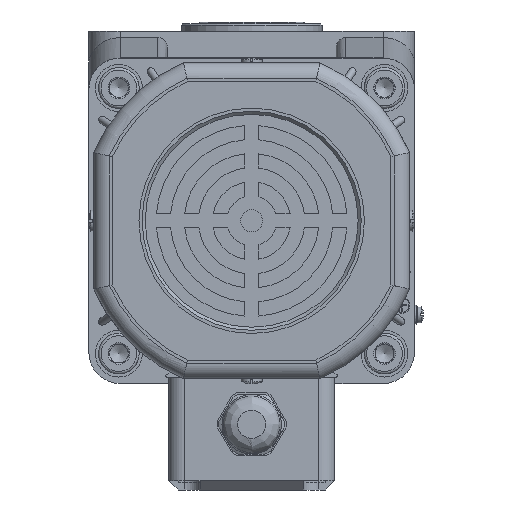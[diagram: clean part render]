
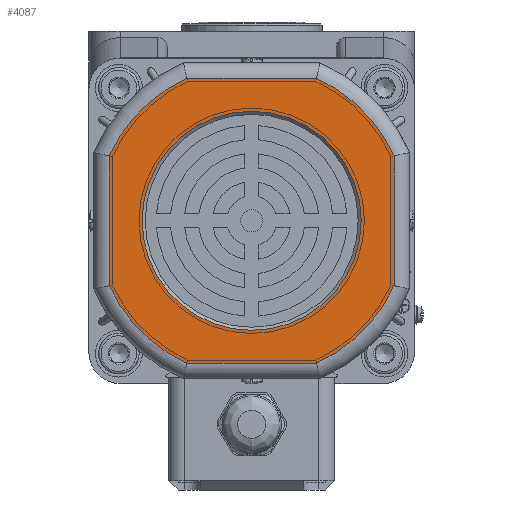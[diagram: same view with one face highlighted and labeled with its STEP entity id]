
A CAD part, left-side view. The second image highlights one B-rep face of the part: STEP entity #4087.
In plain terms, the highlighted planar face has unit normal (-1, 0, 0).
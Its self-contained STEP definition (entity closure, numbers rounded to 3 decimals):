
#4087=ADVANCED_FACE('',(#10599,#10600),#5980,.F.);
#5980=PLANE('',#32898);
#7019=LINE('',#45911,#8898);
#7020=LINE('',#45916,#8899);
#7021=LINE('',#45920,#8900);
#7022=LINE('',#45924,#8901);
#8898=VECTOR('',#36902,1.);
#8899=VECTOR('',#36905,1.);
#8900=VECTOR('',#36908,1.);
#8901=VECTOR('',#36911,1.);
#10599=FACE_BOUND('',#11683,.T.);
#10600=FACE_BOUND('',#11684,.T.);
#11683=EDGE_LOOP('',(#14713,#14714,#14715,#14716,#14717,#14718,#14719,#14720));
#11684=EDGE_LOOP('',(#14721));
#14713=ORIENTED_EDGE('',*,*,#26639,.T.);
#14714=ORIENTED_EDGE('',*,*,#26640,.T.);
#14715=ORIENTED_EDGE('',*,*,#26641,.T.);
#14716=ORIENTED_EDGE('',*,*,#26642,.T.);
#14717=ORIENTED_EDGE('',*,*,#26643,.T.);
#14718=ORIENTED_EDGE('',*,*,#26644,.T.);
#14719=ORIENTED_EDGE('',*,*,#26645,.T.);
#14720=ORIENTED_EDGE('',*,*,#26646,.T.);
#14721=ORIENTED_EDGE('',*,*,#26647,.T.);
#23435=VERTEX_POINT('',#45912);
#23436=VERTEX_POINT('',#45913);
#23437=VERTEX_POINT('',#45915);
#23438=VERTEX_POINT('',#45917);
#23439=VERTEX_POINT('',#45919);
#23440=VERTEX_POINT('',#45921);
#23441=VERTEX_POINT('',#45923);
#23442=VERTEX_POINT('',#45925);
#23443=VERTEX_POINT('',#45928);
#26639=EDGE_CURVE('',#23435,#23436,#7019,.T.);
#26640=EDGE_CURVE('',#23436,#23437,#31116,.T.);
#26641=EDGE_CURVE('',#23437,#23438,#7020,.T.);
#26642=EDGE_CURVE('',#23438,#23439,#31117,.T.);
#26643=EDGE_CURVE('',#23439,#23440,#7021,.T.);
#26644=EDGE_CURVE('',#23440,#23441,#31118,.T.);
#26645=EDGE_CURVE('',#23441,#23442,#7022,.T.);
#26646=EDGE_CURVE('',#23442,#23435,#31119,.T.);
#26647=EDGE_CURVE('',#23443,#23443,#31120,.T.);
#31116=CIRCLE('',#32893,50.);
#31117=CIRCLE('',#32894,50.);
#31118=CIRCLE('',#32895,50.);
#31119=CIRCLE('',#32896,50.);
#31120=CIRCLE('',#32897,35.);
#32893=AXIS2_PLACEMENT_3D('',#45914,#36903,#36904);
#32894=AXIS2_PLACEMENT_3D('',#45918,#36906,#36907);
#32895=AXIS2_PLACEMENT_3D('',#45922,#36909,#36910);
#32896=AXIS2_PLACEMENT_3D('',#45926,#36912,#36913);
#32897=AXIS2_PLACEMENT_3D('',#45927,#36914,#36915);
#32898=AXIS2_PLACEMENT_3D('',#45929,#36916,#36917);
#36902=DIRECTION('',(0.,-1.,0.));
#36903=DIRECTION('',(-1.,0.,0.));
#36904=DIRECTION('',(0.,0.,1.));
#36905=DIRECTION('',(0.,0.,1.));
#36906=DIRECTION('',(-1.,0.,0.));
#36907=DIRECTION('',(0.,0.,1.));
#36908=DIRECTION('',(0.,1.,0.));
#36909=DIRECTION('',(-1.,0.,0.));
#36910=DIRECTION('',(0.,0.,1.));
#36911=DIRECTION('',(0.,0.,-1.));
#36912=DIRECTION('',(-1.,0.,0.));
#36913=DIRECTION('',(0.,0.,1.));
#36914=DIRECTION('',(1.,0.,0.));
#36915=DIRECTION('',(0.,-1.,0.));
#36916=DIRECTION('',(1.,0.,0.));
#36917=DIRECTION('',(0.,0.,1.));
#45911=CARTESIAN_POINT('',(-227.8,-142.46,-103.991));
#45912=CARTESIAN_POINT('',(-227.8,-99.941,-103.991));
#45913=CARTESIAN_POINT('',(-227.8,-141.402,-103.991));
#45914=CARTESIAN_POINT('',(-227.8,-120.671,-58.491));
#45915=CARTESIAN_POINT('',(-227.8,-166.171,-79.221));
#45916=CARTESIAN_POINT('',(-227.8,-166.171,-36.702));
#45917=CARTESIAN_POINT('',(-227.8,-166.171,-37.76));
#45918=CARTESIAN_POINT('',(-227.8,-120.671,-58.491));
#45919=CARTESIAN_POINT('',(-227.8,-141.402,-12.991));
#45920=CARTESIAN_POINT('',(-227.8,-98.882,-12.991));
#45921=CARTESIAN_POINT('',(-227.8,-99.941,-12.991));
#45922=CARTESIAN_POINT('',(-227.8,-120.671,-58.491));
#45923=CARTESIAN_POINT('',(-227.8,-75.171,-37.76));
#45924=CARTESIAN_POINT('',(-227.8,-75.171,-80.28));
#45925=CARTESIAN_POINT('',(-227.8,-75.171,-79.221));
#45926=CARTESIAN_POINT('',(-227.8,-120.671,-58.491));
#45927=CARTESIAN_POINT('',(-227.8,-120.671,-58.491));
#45928=CARTESIAN_POINT('',(-227.8,-155.671,-58.491));
#45929=CARTESIAN_POINT('',(-227.8,-120.671,-58.491));
